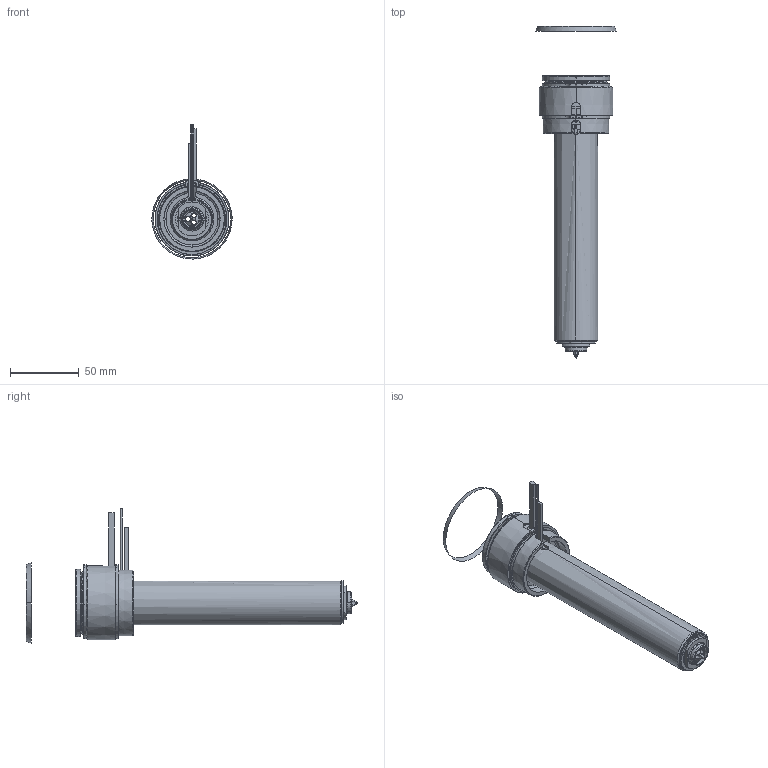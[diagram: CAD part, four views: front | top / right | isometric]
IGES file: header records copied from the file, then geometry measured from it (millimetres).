
Start section: SolidWorks IGES file using analytic representation for surfaces
Global section: file name: C:\Documents and Settings\ws-20\Desktop\TEM\UGEP5504-S-A-0 [Øf-1.18 ØC-13].IGS; native system: SolidWorks 2012; preprocessor: SolidWorks 2012; author: ws-20; date: 120427.081936; units: millimetre
Bounding box: 58.57 x 242.24 x 97.91 mm (x, y, z)
Surface area: 85544.9 mm2 (no closed solid volume)
Topology: 0 solids, 0 shells, 176 faces, 3567 edges, 3567 vertices
Faces by surface type: revolution 115, bspline 61
